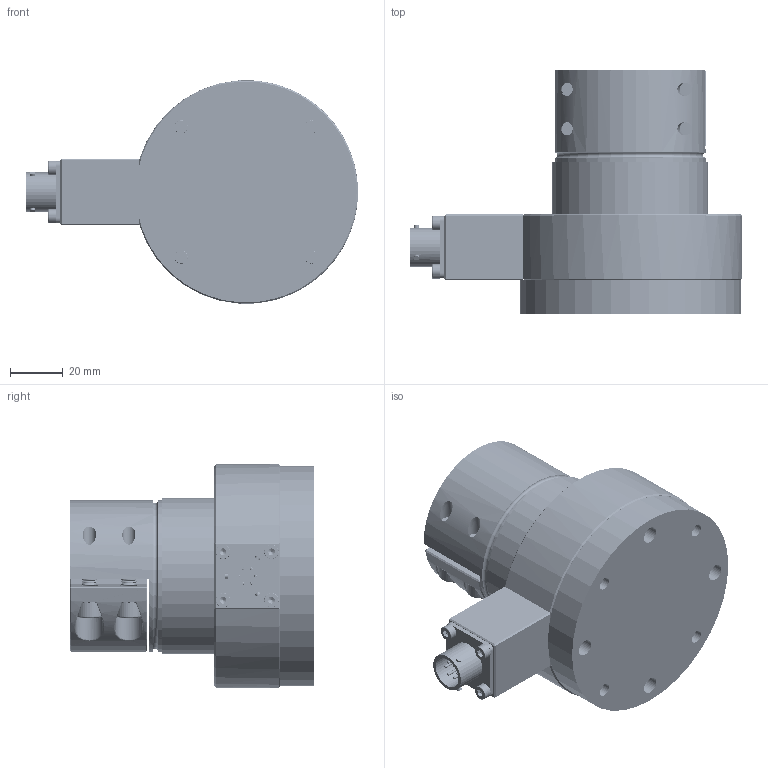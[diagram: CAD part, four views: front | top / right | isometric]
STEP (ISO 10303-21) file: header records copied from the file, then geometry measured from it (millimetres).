
FILE_DESCRIPTION (( 'STEP AP203' ), '1' );
FILE_NAME ('TR-N5C-P30-1.STEP', '2018-06-13T10:20:26', ( '' ), ( '' ), 'SwSTEP 2.0', 'SolidWorks 2018', '' );
FILE_SCHEMA (( 'CONFIG_CONTROL_DESIGN' ));
Length unit declared in the file: millimetre
Products named in the file (1): TR-N5C-P30-1
Bounding box: 126.22 x 93 x 84.82 mm (x, y, z)
Volume: 263731.4 mm3; surface area: 92458.6 mm2
Topology: 23 solids, 23 shells, 3463 faces, 8884 edges, 5505 vertices
Faces by surface type: cone 1765, cylinder 1071, plane 468, torus 86, bspline 73
Entity records: 111414 total; most frequent: CARTESIAN_POINT 23913, DIRECTION 20364, ORIENTED_EDGE 17664, EDGE_CURVE 8832, AXIS2_PLACEMENT_3D 8342, VERTEX_POINT 5505, CIRCLE 4951, VECTOR 3680
